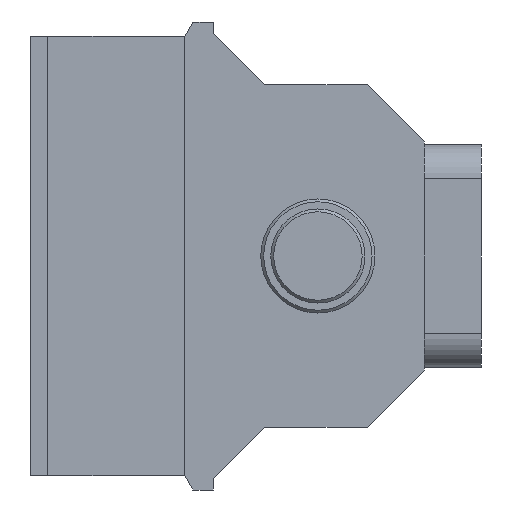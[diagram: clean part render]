
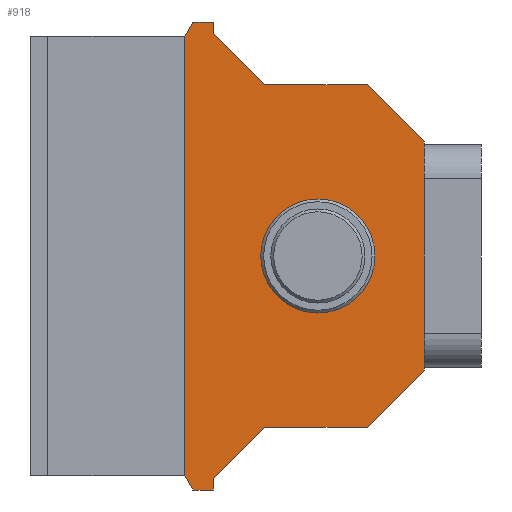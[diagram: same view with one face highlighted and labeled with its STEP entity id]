
A CAD part, left-side view. The second image highlights one B-rep face of the part: STEP entity #918.
In plain terms, the highlighted planar face has unit normal (-1, 0, 0).
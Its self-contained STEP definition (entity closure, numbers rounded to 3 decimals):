
#14 = CARTESIAN_POINT ( 'NONE',  ( -13.5, 60.557, -41. ) ) ;
#16 = VECTOR ( 'NONE', #1234, 1000. ) ;
#53 = EDGE_CURVE ( 'NONE', #1524, #2894, #2204, .T. ) ;
#56 = PLANE ( 'NONE',  #2685 ) ;
#88 = LINE ( 'NONE', #2648, #2126 ) ;
#128 = CARTESIAN_POINT ( 'NONE',  ( -13.5, 20., -20. ) ) ;
#130 = VERTEX_POINT ( 'NONE', #1300 ) ;
#155 = VERTEX_POINT ( 'NONE', #1210 ) ;
#182 = VECTOR ( 'NONE', #1155, 1000. ) ;
#212 = ORIENTED_EDGE ( 'NONE', *, *, #838, .T. ) ;
#220 = LINE ( 'NONE', #972, #182 ) ;
#267 = ORIENTED_EDGE ( 'NONE', *, *, #2705, .F. ) ;
#328 = LINE ( 'NONE', #1929, #16 ) ;
#337 = VECTOR ( 'NONE', #2535, 1000. ) ;
#363 = ORIENTED_EDGE ( 'NONE', *, *, #1257, .T. ) ;
#368 = DIRECTION ( 'NONE',  ( 0., 0., -1. ) ) ;
#481 = ORIENTED_EDGE ( 'NONE', *, *, #53, .F. ) ;
#488 = EDGE_CURVE ( 'NONE', #2082, #130, #491, .T. ) ;
#491 = LINE ( 'NONE', #928, #2077 ) ;
#504 = CARTESIAN_POINT ( 'NONE',  ( -13.5, 20., -20. ) ) ;
#536 = DIRECTION ( 'NONE',  ( 1., 0., 0. ) ) ;
#541 = CARTESIAN_POINT ( 'NONE',  ( -13.5, 57., 39. ) ) ;
#589 = DIRECTION ( 'NONE',  ( 0., 0., -1. ) ) ;
#599 = EDGE_CURVE ( 'NONE', #2475, #1018, #328, .T. ) ;
#612 = ORIENTED_EDGE ( 'NONE', *, *, #488, .F. ) ;
#619 = CARTESIAN_POINT ( 'NONE',  ( -13.5, 20., -20. ) ) ;
#626 = CARTESIAN_POINT ( 'NONE',  ( -13.5, 62., 38.5 ) ) ;
#628 = VECTOR ( 'NONE', #1866, 1000. ) ;
#646 = VERTEX_POINT ( 'NONE', #541 ) ;
#706 = DIRECTION ( 'NONE',  ( 0., 0.5, -0.866 ) ) ;
#714 = VECTOR ( 'NONE', #1458, 1000. ) ;
#719 = LINE ( 'NONE', #2822, #1152 ) ;
#804 = CARTESIAN_POINT ( 'NONE',  ( -13.5, 57., -41. ) ) ;
#819 = DIRECTION ( 'NONE',  ( 0., 0., -1. ) ) ;
#831 = LINE ( 'NONE', #804, #1052 ) ;
#838 = EDGE_CURVE ( 'NONE', #1018, #1816, #1419, .T. ) ;
#897 = CARTESIAN_POINT ( 'NONE',  ( -13.5, 104.484, 35.085 ) ) ;
#899 = CARTESIAN_POINT ( 'NONE',  ( -13.5, 20., 19.5 ) ) ;
#909 = CARTESIAN_POINT ( 'NONE',  ( -13.5, 30., 30. ) ) ;
#918 = ADVANCED_FACE ( 'NONE', ( #925, #2678 ), #56, .F. ) ;
#924 = EDGE_CURVE ( 'NONE', #1044, #2784, #88, .T. ) ;
#925 = FACE_BOUND ( 'NONE', #2445, .T. ) ;
#928 = CARTESIAN_POINT ( 'NONE',  ( -13.5, 20., 20. ) ) ;
#970 = CARTESIAN_POINT ( 'NONE',  ( -13.5, 30., 30. ) ) ;
#972 = CARTESIAN_POINT ( 'NONE',  ( -13.5, 20., -20. ) ) ;
#990 = DIRECTION ( 'NONE',  ( 0., 0., 1. ) ) ;
#996 = CARTESIAN_POINT ( 'NONE',  ( -13.5, 57., 41. ) ) ;
#1018 = VERTEX_POINT ( 'NONE', #1835 ) ;
#1019 = VECTOR ( 'NONE', #2000, 1000. ) ;
#1041 = ORIENTED_EDGE ( 'NONE', *, *, #1977, .F. ) ;
#1044 = VERTEX_POINT ( 'NONE', #1898 ) ;
#1050 = CARTESIAN_POINT ( 'NONE',  ( -13.5, 57., 62.5 ) ) ;
#1052 = VECTOR ( 'NONE', #1733, 1000. ) ;
#1068 = CARTESIAN_POINT ( 'NONE',  ( -13.5, 48., -30. ) ) ;
#1094 = CARTESIAN_POINT ( 'NONE',  ( -13.5, 48., -30. ) ) ;
#1108 = EDGE_LOOP ( 'NONE', ( #2442, #212, #1916, #363, #2655, #2354, #2804, #1041, #267, #481, #1149, #1801, #612, #1878, #1344, #2689 ) ) ;
#1122 = LINE ( 'NONE', #897, #714 ) ;
#1140 = DIRECTION ( 'NONE',  ( -1., 0., 0. ) ) ;
#1149 = ORIENTED_EDGE ( 'NONE', *, *, #2579, .F. ) ;
#1152 = VECTOR ( 'NONE', #990, 1000. ) ;
#1155 = DIRECTION ( 'NONE',  ( 0., 0., -1. ) ) ;
#1210 = CARTESIAN_POINT ( 'NONE',  ( -13.5, 48., -30. ) ) ;
#1212 = CARTESIAN_POINT ( 'NONE',  ( -13.5, 20., -19.5 ) ) ;
#1234 = DIRECTION ( 'NONE',  ( 0., 1., 0. ) ) ;
#1257 = EDGE_CURVE ( 'NONE', #1533, #1266, #1122, .T. ) ;
#1266 = VERTEX_POINT ( 'NONE', #14 ) ;
#1275 = LINE ( 'NONE', #1094, #1019 ) ;
#1300 = CARTESIAN_POINT ( 'NONE',  ( -13.5, 20., 20. ) ) ;
#1303 = DIRECTION ( 'NONE',  ( 0., 0.707, -0.707 ) ) ;
#1336 = EDGE_CURVE ( 'NONE', #2475, #646, #2932, .T. ) ;
#1344 = ORIENTED_EDGE ( 'NONE', *, *, #2603, .F. ) ;
#1390 = EDGE_CURVE ( 'NONE', #1266, #2784, #831, .T. ) ;
#1397 = LINE ( 'NONE', #2573, #628 ) ;
#1416 = AXIS2_PLACEMENT_3D ( 'NONE', #1675, #1140, #1658 ) ;
#1419 = LINE ( 'NONE', #1913, #1449 ) ;
#1421 = CARTESIAN_POINT ( 'NONE',  ( -13.5, 62., -38.5 ) ) ;
#1449 = VECTOR ( 'NONE', #706, 1000. ) ;
#1458 = DIRECTION ( 'NONE',  ( 0., -0.5, -0.866 ) ) ;
#1494 = DIRECTION ( 'NONE',  ( 0., 0., -1. ) ) ;
#1524 = VERTEX_POINT ( 'NONE', #1212 ) ;
#1533 = VERTEX_POINT ( 'NONE', #1421 ) ;
#1622 = CARTESIAN_POINT ( 'NONE',  ( -13.5, 30., -30. ) ) ;
#1658 = DIRECTION ( 'NONE',  ( 0., 0., -1. ) ) ;
#1675 = CARTESIAN_POINT ( 'NONE',  ( -13.5, 38.66, 0. ) ) ;
#1702 = DIRECTION ( 'NONE',  ( 0., 0.707, -0.707 ) ) ;
#1715 = VECTOR ( 'NONE', #1702, 1000. ) ;
#1733 = DIRECTION ( 'NONE',  ( 0., -1., 0. ) ) ;
#1763 = VERTEX_POINT ( 'NONE', #2803 ) ;
#1801 = ORIENTED_EDGE ( 'NONE', *, *, #2316, .F. ) ;
#1816 = VERTEX_POINT ( 'NONE', #626 ) ;
#1822 = ORIENTED_EDGE ( 'NONE', *, *, #2098, .F. ) ;
#1835 = CARTESIAN_POINT ( 'NONE',  ( -13.5, 60.557, 41. ) ) ;
#1859 = DIRECTION ( 'NONE',  ( 0., -0.707, -0.707 ) ) ;
#1866 = DIRECTION ( 'NONE',  ( 0., -0.707, -0.707 ) ) ;
#1878 = ORIENTED_EDGE ( 'NONE', *, *, #2805, .F. ) ;
#1887 = CARTESIAN_POINT ( 'NONE',  ( -13.5, 57., -41. ) ) ;
#1898 = CARTESIAN_POINT ( 'NONE',  ( -13.5, 57., -39. ) ) ;
#1899 = VECTOR ( 'NONE', #819, 1000. ) ;
#1909 = EDGE_CURVE ( 'NONE', #1533, #1816, #719, .T. ) ;
#1913 = CARTESIAN_POINT ( 'NONE',  ( -13.5, 50.358, 58.665 ) ) ;
#1916 = ORIENTED_EDGE ( 'NONE', *, *, #1909, .F. ) ;
#1924 = VERTEX_POINT ( 'NONE', #2889 ) ;
#1929 = CARTESIAN_POINT ( 'NONE',  ( -13.5, 57., 41. ) ) ;
#1955 = CARTESIAN_POINT ( 'NONE',  ( -13.5, 30., -30. ) ) ;
#1977 = EDGE_CURVE ( 'NONE', #2833, #155, #1275, .T. ) ;
#2000 = DIRECTION ( 'NONE',  ( 0., 1., 0. ) ) ;
#2015 = EDGE_CURVE ( 'NONE', #155, #1044, #2993, .T. ) ;
#2077 = VECTOR ( 'NONE', #1859, 1000. ) ;
#2082 = VERTEX_POINT ( 'NONE', #970 ) ;
#2098 = EDGE_CURVE ( 'NONE', #1924, #1924, #2953, .T. ) ;
#2126 = VECTOR ( 'NONE', #2940, 1000. ) ;
#2204 = LINE ( 'NONE', #128, #2776 ) ;
#2316 = EDGE_CURVE ( 'NONE', #130, #3046, #2742, .T. ) ;
#2348 = VECTOR ( 'NONE', #1303, 1000. ) ;
#2354 = ORIENTED_EDGE ( 'NONE', *, *, #924, .F. ) ;
#2442 = ORIENTED_EDGE ( 'NONE', *, *, #599, .T. ) ;
#2445 = EDGE_LOOP ( 'NONE', ( #1822 ) ) ;
#2475 = VERTEX_POINT ( 'NONE', #996 ) ;
#2535 = DIRECTION ( 'NONE',  ( 0., -1., 0. ) ) ;
#2573 = CARTESIAN_POINT ( 'NONE',  ( -13.5, 57., 39. ) ) ;
#2579 = EDGE_CURVE ( 'NONE', #3046, #1524, #220, .T. ) ;
#2603 = EDGE_CURVE ( 'NONE', #646, #1763, #1397, .T. ) ;
#2648 = CARTESIAN_POINT ( 'NONE',  ( -13.5, 57., -39. ) ) ;
#2655 = ORIENTED_EDGE ( 'NONE', *, *, #1390, .T. ) ;
#2659 = LINE ( 'NONE', #1955, #1715 ) ;
#2678 = FACE_OUTER_BOUND ( 'NONE', #1108, .T. ) ;
#2685 = AXIS2_PLACEMENT_3D ( 'NONE', #1050, #536, #1494 ) ;
#2689 = ORIENTED_EDGE ( 'NONE', *, *, #1336, .F. ) ;
#2699 = VECTOR ( 'NONE', #589, 1000. ) ;
#2705 = EDGE_CURVE ( 'NONE', #2894, #2833, #2659, .T. ) ;
#2742 = LINE ( 'NONE', #619, #1899 ) ;
#2776 = VECTOR ( 'NONE', #368, 1000. ) ;
#2784 = VERTEX_POINT ( 'NONE', #1887 ) ;
#2803 = CARTESIAN_POINT ( 'NONE',  ( -13.5, 48., 30. ) ) ;
#2804 = ORIENTED_EDGE ( 'NONE', *, *, #2015, .F. ) ;
#2805 = EDGE_CURVE ( 'NONE', #1763, #2082, #3031, .T. ) ;
#2822 = CARTESIAN_POINT ( 'NONE',  ( -13.5, 62., 62.5 ) ) ;
#2833 = VERTEX_POINT ( 'NONE', #1622 ) ;
#2889 = CARTESIAN_POINT ( 'NONE',  ( -13.5, 38.66, -10. ) ) ;
#2894 = VERTEX_POINT ( 'NONE', #504 ) ;
#2932 = LINE ( 'NONE', #2972, #2699 ) ;
#2940 = DIRECTION ( 'NONE',  ( 0., 0., -1. ) ) ;
#2953 = CIRCLE ( 'NONE', #1416, 10. ) ;
#2972 = CARTESIAN_POINT ( 'NONE',  ( -13.5, 57., 62.5 ) ) ;
#2993 = LINE ( 'NONE', #1068, #2348 ) ;
#3031 = LINE ( 'NONE', #909, #337 ) ;
#3046 = VERTEX_POINT ( 'NONE', #899 ) ;
